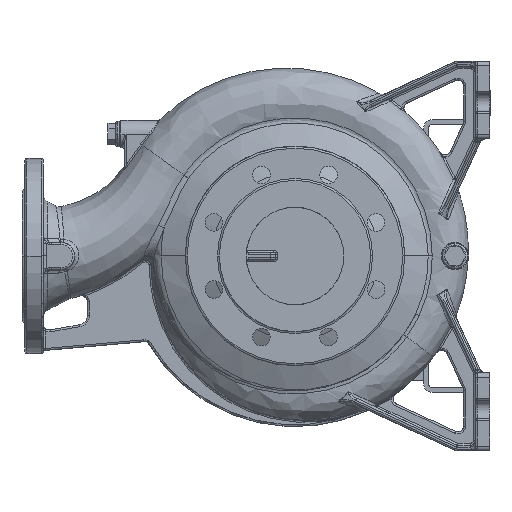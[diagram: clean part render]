
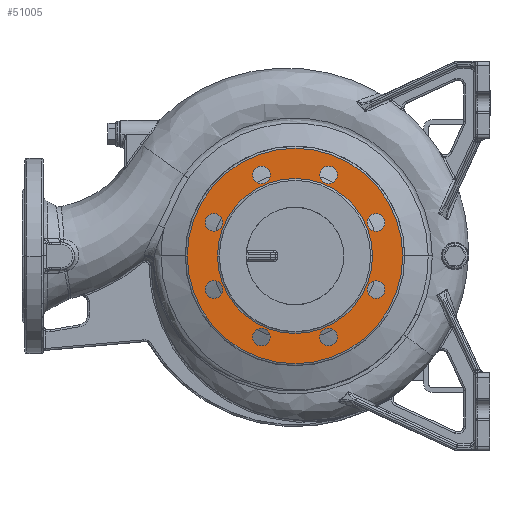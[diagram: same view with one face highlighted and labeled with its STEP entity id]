
A CAD part, front view. The second image highlights one B-rep face of the part: STEP entity #51005.
In plain terms, the highlighted planar face has unit normal (0, -1, 0) as drawn and (0, 0, 1) by its records, which use the part's own axes.
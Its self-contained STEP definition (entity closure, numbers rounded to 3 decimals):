
#32723=CARTESIAN_POINT('',(0.,0.,122.));
#32724=DIRECTION('',(0.,0.,-1.));
#32725=DIRECTION('',(0.,-1.,0.));
#32726=AXIS2_PLACEMENT_3D('',#32723,#32724,#32725);
#32731=CARTESIAN_POINT('',(0.,0.,122.));
#32732=DIRECTION('',(0.,0.,-1.));
#32733=DIRECTION('',(0.,1.,0.));
#32734=AXIS2_PLACEMENT_3D('',#32731,#32732,#32733);
#32739=CARTESIAN_POINT('',(0.,0.,122.));
#32740=DIRECTION('',(0.,0.,1.));
#32741=DIRECTION('',(0.,1.,0.));
#32742=AXIS2_PLACEMENT_3D('',#32739,#32740,#32741);
#32747=CARTESIAN_POINT('',(0.,0.,122.));
#32748=DIRECTION('',(0.,0.,1.));
#32749=DIRECTION('',(0.,-1.,0.));
#32750=AXIS2_PLACEMENT_3D('',#32747,#32748,#32749);
#32755=CARTESIAN_POINT('',(-34.442,83.149,122.));
#32756=DIRECTION('',(0.,0.,1.));
#32757=DIRECTION('',(1.,0.,0.));
#32758=AXIS2_PLACEMENT_3D('',#32755,#32756,#32757);
#32763=CARTESIAN_POINT('',(-34.442,83.149,122.));
#32764=DIRECTION('',(0.,0.,1.));
#32765=DIRECTION('',(-1.,0.,0.));
#32766=AXIS2_PLACEMENT_3D('',#32763,#32764,#32765);
#32771=CARTESIAN_POINT('',(-83.149,34.442,122.));
#32772=DIRECTION('',(0.,0.,1.));
#32773=DIRECTION('',(0.707,0.707,0.));
#32774=AXIS2_PLACEMENT_3D('',#32771,#32772,#32773);
#32779=CARTESIAN_POINT('',(-83.149,34.442,122.));
#32780=DIRECTION('',(0.,0.,1.));
#32781=DIRECTION('',(-0.707,-0.707,0.));
#32782=AXIS2_PLACEMENT_3D('',#32779,#32780,#32781);
#32787=CARTESIAN_POINT('',(-83.149,-34.442,122.));
#32788=DIRECTION('',(0.,0.,1.));
#32789=DIRECTION('',(0.,1.,0.));
#32790=AXIS2_PLACEMENT_3D('',#32787,#32788,#32789);
#32795=CARTESIAN_POINT('',(-83.149,-34.442,122.));
#32796=DIRECTION('',(0.,0.,1.));
#32797=DIRECTION('',(0.,-1.,0.));
#32798=AXIS2_PLACEMENT_3D('',#32795,#32796,#32797);
#32803=CARTESIAN_POINT('',(-34.442,-83.149,122.));
#32804=DIRECTION('',(0.,0.,1.));
#32805=DIRECTION('',(-0.707,0.707,0.));
#32806=AXIS2_PLACEMENT_3D('',#32803,#32804,#32805);
#32811=CARTESIAN_POINT('',(-34.442,-83.149,122.));
#32812=DIRECTION('',(0.,0.,1.));
#32813=DIRECTION('',(0.707,-0.707,0.));
#32814=AXIS2_PLACEMENT_3D('',#32811,#32812,#32813);
#32819=CARTESIAN_POINT('',(34.442,-83.149,122.));
#32820=DIRECTION('',(0.,0.,1.));
#32821=DIRECTION('',(-1.,0.,0.));
#32822=AXIS2_PLACEMENT_3D('',#32819,#32820,#32821);
#32827=CARTESIAN_POINT('',(34.442,-83.149,122.));
#32828=DIRECTION('',(0.,0.,1.));
#32829=DIRECTION('',(1.,0.,0.));
#32830=AXIS2_PLACEMENT_3D('',#32827,#32828,#32829);
#32835=CARTESIAN_POINT('',(83.149,-34.442,122.));
#32836=DIRECTION('',(0.,0.,1.));
#32837=DIRECTION('',(-0.707,-0.707,0.));
#32838=AXIS2_PLACEMENT_3D('',#32835,#32836,#32837);
#32843=CARTESIAN_POINT('',(83.149,-34.442,122.));
#32844=DIRECTION('',(0.,0.,1.));
#32845=DIRECTION('',(0.707,0.707,0.));
#32846=AXIS2_PLACEMENT_3D('',#32843,#32844,#32845);
#32851=CARTESIAN_POINT('',(83.149,34.442,122.));
#32852=DIRECTION('',(0.,0.,1.));
#32853=DIRECTION('',(0.,-1.,0.));
#32854=AXIS2_PLACEMENT_3D('',#32851,#32852,#32853);
#32859=CARTESIAN_POINT('',(83.149,34.442,122.));
#32860=DIRECTION('',(0.,0.,1.));
#32861=DIRECTION('',(0.,1.,0.));
#32862=AXIS2_PLACEMENT_3D('',#32859,#32860,#32861);
#32867=CARTESIAN_POINT('',(34.442,83.149,122.));
#32868=DIRECTION('',(0.,0.,1.));
#32869=DIRECTION('',(0.707,-0.707,0.));
#32870=AXIS2_PLACEMENT_3D('',#32867,#32868,#32869);
#32875=CARTESIAN_POINT('',(34.442,83.149,122.));
#32876=DIRECTION('',(0.,0.,1.));
#32877=DIRECTION('',(-0.707,0.707,0.));
#32878=AXIS2_PLACEMENT_3D('',#32875,#32876,#32877);
#40446=CARTESIAN_POINT('',(0.,-79.5,122.));
#40447=CARTESIAN_POINT('',(0.,79.5,122.));
#40448=VERTEX_POINT('',#40446);
#40449=VERTEX_POINT('',#40447);
#40450=CARTESIAN_POINT('',(0.,110.5,122.));
#40451=CARTESIAN_POINT('',(0.,-110.5,122.));
#40452=VERTEX_POINT('',#40450);
#40453=VERTEX_POINT('',#40451);
#40522=CARTESIAN_POINT('',(-25.442,83.149,122.));
#40523=CARTESIAN_POINT('',(-43.442,83.149,122.));
#40524=VERTEX_POINT('',#40522);
#40525=VERTEX_POINT('',#40523);
#40530=CARTESIAN_POINT('',(-76.785,40.805,122.));
#40531=CARTESIAN_POINT('',(-89.513,28.078,122.));
#40532=VERTEX_POINT('',#40530);
#40533=VERTEX_POINT('',#40531);
#40538=CARTESIAN_POINT('',(-83.149,-25.442,122.));
#40539=CARTESIAN_POINT('',(-83.149,-43.442,122.));
#40540=VERTEX_POINT('',#40538);
#40541=VERTEX_POINT('',#40539);
#40546=CARTESIAN_POINT('',(-40.805,-76.785,122.));
#40547=CARTESIAN_POINT('',(-28.078,-89.513,122.));
#40548=VERTEX_POINT('',#40546);
#40549=VERTEX_POINT('',#40547);
#40554=CARTESIAN_POINT('',(25.442,-83.149,122.));
#40555=CARTESIAN_POINT('',(43.442,-83.149,122.));
#40556=VERTEX_POINT('',#40554);
#40557=VERTEX_POINT('',#40555);
#40562=CARTESIAN_POINT('',(76.785,-40.805,122.));
#40563=CARTESIAN_POINT('',(89.513,-28.078,122.));
#40564=VERTEX_POINT('',#40562);
#40565=VERTEX_POINT('',#40563);
#40570=CARTESIAN_POINT('',(83.149,25.442,122.));
#40571=CARTESIAN_POINT('',(83.149,43.442,122.));
#40572=VERTEX_POINT('',#40570);
#40573=VERTEX_POINT('',#40571);
#40578=CARTESIAN_POINT('',(40.805,76.785,122.));
#40579=CARTESIAN_POINT('',(28.078,89.513,122.));
#40580=VERTEX_POINT('',#40578);
#40581=VERTEX_POINT('',#40579);
#50941=CARTESIAN_POINT('',(0.,0.,122.));
#50942=DIRECTION('',(0.,0.,-1.));
#50943=DIRECTION('',(0.,-1.,0.));
#50944=AXIS2_PLACEMENT_3D('',#50941,#50942,#50943);
#50945=PLANE('',#50944);
#50947=ORIENTED_EDGE('',*,*,#50946,.F.);
#50949=ORIENTED_EDGE('',*,*,#50948,.F.);
#50950=EDGE_LOOP('',(#50947,#50949));
#50951=FACE_OUTER_BOUND('',#50950,.F.);
#50953=ORIENTED_EDGE('',*,*,#50952,.F.);
#50955=ORIENTED_EDGE('',*,*,#50954,.F.);
#50956=EDGE_LOOP('',(#50953,#50955));
#50957=FACE_BOUND('',#50956,.F.);
#50958=ORIENTED_EDGE('',*,*,#50931,.T.);
#50960=ORIENTED_EDGE('',*,*,#50959,.T.);
#50961=EDGE_LOOP('',(#50958,#50960));
#50962=FACE_BOUND('',#50961,.F.);
#50964=ORIENTED_EDGE('',*,*,#50963,.T.);
#50966=ORIENTED_EDGE('',*,*,#50965,.T.);
#50967=EDGE_LOOP('',(#50964,#50966));
#50968=FACE_BOUND('',#50967,.F.);
#50970=ORIENTED_EDGE('',*,*,#50969,.T.);
#50972=ORIENTED_EDGE('',*,*,#50971,.T.);
#50973=EDGE_LOOP('',(#50970,#50972));
#50974=FACE_BOUND('',#50973,.F.);
#50976=ORIENTED_EDGE('',*,*,#50975,.T.);
#50978=ORIENTED_EDGE('',*,*,#50977,.T.);
#50979=EDGE_LOOP('',(#50976,#50978));
#50980=FACE_BOUND('',#50979,.F.);
#50982=ORIENTED_EDGE('',*,*,#50981,.T.);
#50984=ORIENTED_EDGE('',*,*,#50983,.T.);
#50985=EDGE_LOOP('',(#50982,#50984));
#50986=FACE_BOUND('',#50985,.F.);
#50988=ORIENTED_EDGE('',*,*,#50987,.T.);
#50990=ORIENTED_EDGE('',*,*,#50989,.T.);
#50991=EDGE_LOOP('',(#50988,#50990));
#50992=FACE_BOUND('',#50991,.F.);
#50994=ORIENTED_EDGE('',*,*,#50993,.T.);
#50996=ORIENTED_EDGE('',*,*,#50995,.T.);
#50997=EDGE_LOOP('',(#50994,#50996));
#50998=FACE_BOUND('',#50997,.F.);
#51000=ORIENTED_EDGE('',*,*,#50999,.T.);
#51002=ORIENTED_EDGE('',*,*,#51001,.T.);
#51003=EDGE_LOOP('',(#51000,#51002));
#51004=FACE_BOUND('',#51003,.F.);
#32727=CIRCLE('',#32726,79.5);
#32735=CIRCLE('',#32734,79.5);
#32743=CIRCLE('',#32742,110.5);
#32751=CIRCLE('',#32750,110.5);
#32759=CIRCLE('',#32758,9.);
#32767=CIRCLE('',#32766,9.);
#32775=CIRCLE('',#32774,9.);
#32783=CIRCLE('',#32782,9.);
#32791=CIRCLE('',#32790,9.);
#32799=CIRCLE('',#32798,9.);
#32807=CIRCLE('',#32806,9.);
#32815=CIRCLE('',#32814,9.);
#32823=CIRCLE('',#32822,9.);
#32831=CIRCLE('',#32830,9.);
#32839=CIRCLE('',#32838,9.);
#32847=CIRCLE('',#32846,9.);
#32855=CIRCLE('',#32854,9.);
#32863=CIRCLE('',#32862,9.);
#32871=CIRCLE('',#32870,9.);
#32879=CIRCLE('',#32878,9.);
#50931=EDGE_CURVE('',#40524,#40525,#32759,.T.);
#50946=EDGE_CURVE('',#40452,#40453,#32743,.T.);
#50948=EDGE_CURVE('',#40453,#40452,#32751,.T.);
#50952=EDGE_CURVE('',#40448,#40449,#32727,.T.);
#50954=EDGE_CURVE('',#40449,#40448,#32735,.T.);
#50959=EDGE_CURVE('',#40525,#40524,#32767,.T.);
#50963=EDGE_CURVE('',#40532,#40533,#32775,.T.);
#50965=EDGE_CURVE('',#40533,#40532,#32783,.T.);
#50969=EDGE_CURVE('',#40540,#40541,#32791,.T.);
#50971=EDGE_CURVE('',#40541,#40540,#32799,.T.);
#50975=EDGE_CURVE('',#40548,#40549,#32807,.T.);
#50977=EDGE_CURVE('',#40549,#40548,#32815,.T.);
#50981=EDGE_CURVE('',#40556,#40557,#32823,.T.);
#50983=EDGE_CURVE('',#40557,#40556,#32831,.T.);
#50987=EDGE_CURVE('',#40564,#40565,#32839,.T.);
#50989=EDGE_CURVE('',#40565,#40564,#32847,.T.);
#50993=EDGE_CURVE('',#40572,#40573,#32855,.T.);
#50995=EDGE_CURVE('',#40573,#40572,#32863,.T.);
#50999=EDGE_CURVE('',#40580,#40581,#32871,.T.);
#51001=EDGE_CURVE('',#40581,#40580,#32879,.T.);
#51005=ADVANCED_FACE('',(#50951,#50957,#50962,#50968,#50974,#50980,#50986,
#50992,#50998,#51004),#50945,.F.);
